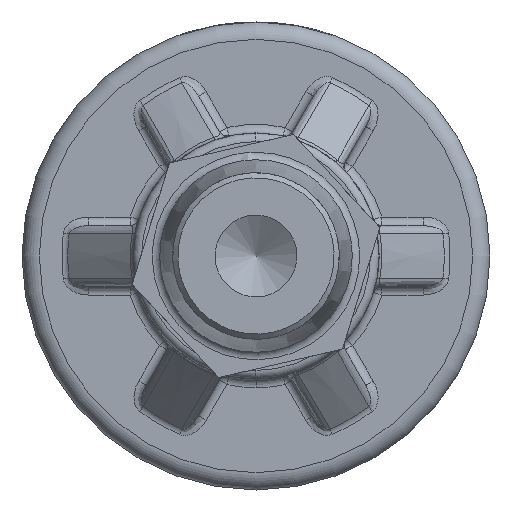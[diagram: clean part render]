
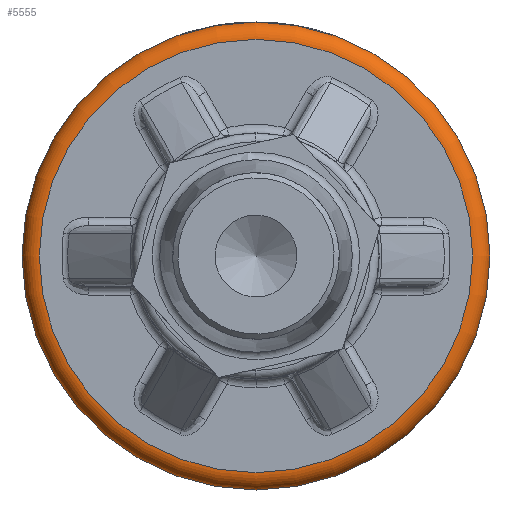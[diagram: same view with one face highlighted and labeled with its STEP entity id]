
A CAD part, left-side view. The second image highlights one B-rep face of the part: STEP entity #5555.
In plain terms, the highlighted toroidal (fillet/blend) face has major radius 6.25 mm and minor radius 0.5 mm.
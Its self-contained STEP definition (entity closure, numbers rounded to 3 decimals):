
#198=TOROIDAL_SURFACE('',#6071,6.25,0.5);
#527=FACE_OUTER_BOUND('',#882,.T.);
#882=EDGE_LOOP('',(#4259,#4260,#4261,#4262,#4263,#4264));
#1422=CIRCLE('',#6040,6.75);
#1423=CIRCLE('',#6042,6.75);
#1426=CIRCLE('',#6072,0.5);
#1427=CIRCLE('',#6073,6.25);
#1428=CIRCLE('',#6074,6.25);
#2270=VERTEX_POINT('',#14720);
#2284=VERTEX_POINT('',#14824);
#2305=VERTEX_POINT('',#15525);
#2306=VERTEX_POINT('',#15527);
#2924=EDGE_CURVE('',#2284,#2270,#1422,.T.);
#2925=EDGE_CURVE('',#2270,#2284,#1423,.T.);
#2983=EDGE_CURVE('',#2284,#2305,#1426,.T.);
#2984=EDGE_CURVE('',#2306,#2305,#1427,.T.);
#2985=EDGE_CURVE('',#2305,#2306,#1428,.T.);
#4259=ORIENTED_EDGE('',*,*,#2924,.F.);
#4260=ORIENTED_EDGE('',*,*,#2983,.T.);
#4261=ORIENTED_EDGE('',*,*,#2984,.F.);
#4262=ORIENTED_EDGE('',*,*,#2985,.F.);
#4263=ORIENTED_EDGE('',*,*,#2983,.F.);
#4264=ORIENTED_EDGE('',*,*,#2925,.F.);
#5555=ADVANCED_FACE('',(#527),#198,.T.);
#6040=AXIS2_PLACEMENT_3D('',#14826,#7112,#7113);
#6042=AXIS2_PLACEMENT_3D('',#14828,#7116,#7117);
#6071=AXIS2_PLACEMENT_3D('',#15524,#7193,#7194);
#6072=AXIS2_PLACEMENT_3D('',#15526,#7195,#7196);
#6073=AXIS2_PLACEMENT_3D('',#15528,#7197,#7198);
#6074=AXIS2_PLACEMENT_3D('',#15529,#7199,#7200);
#7112=DIRECTION('center_axis',(1.,0.,0.));
#7113=DIRECTION('ref_axis',(0.,0.,
1.));
#7116=DIRECTION('center_axis',(1.,0.,0.));
#7117=DIRECTION('ref_axis',(0.,0.,-1.));
#7193=DIRECTION('center_axis',(1.,0.,0.));
#7194=DIRECTION('ref_axis',(0.,0.,-1.));
#7195=DIRECTION('center_axis',(0.,-1.,0.));
#7196=DIRECTION('ref_axis',(0.,0.,
1.));
#7197=DIRECTION('center_axis',(-1.,0.,0.));
#7198=DIRECTION('ref_axis',(0.,0.,
-1.));
#7199=DIRECTION('center_axis',(-1.,0.,0.));
#7200=DIRECTION('ref_axis',(0.,0.,1.));
#14720=CARTESIAN_POINT('',(-3.375,0.,-6.75));
#14824=CARTESIAN_POINT('',(-3.375,0.,6.75));
#14826=CARTESIAN_POINT('Origin',(-3.375,0.,0.));
#14828=CARTESIAN_POINT('Origin',(-3.375,0.,0.));
#15524=CARTESIAN_POINT('Origin',(-3.375,0.,
0.));
#15525=CARTESIAN_POINT('',(-3.875,0.,6.25));
#15526=CARTESIAN_POINT('Origin',(-3.375,0.,
6.25));
#15527=CARTESIAN_POINT('',(-3.875,0.,-6.25));
#15528=CARTESIAN_POINT('Origin',(-3.875,0.,0.));
#15529=CARTESIAN_POINT('Origin',(-3.875,0.,0.));
